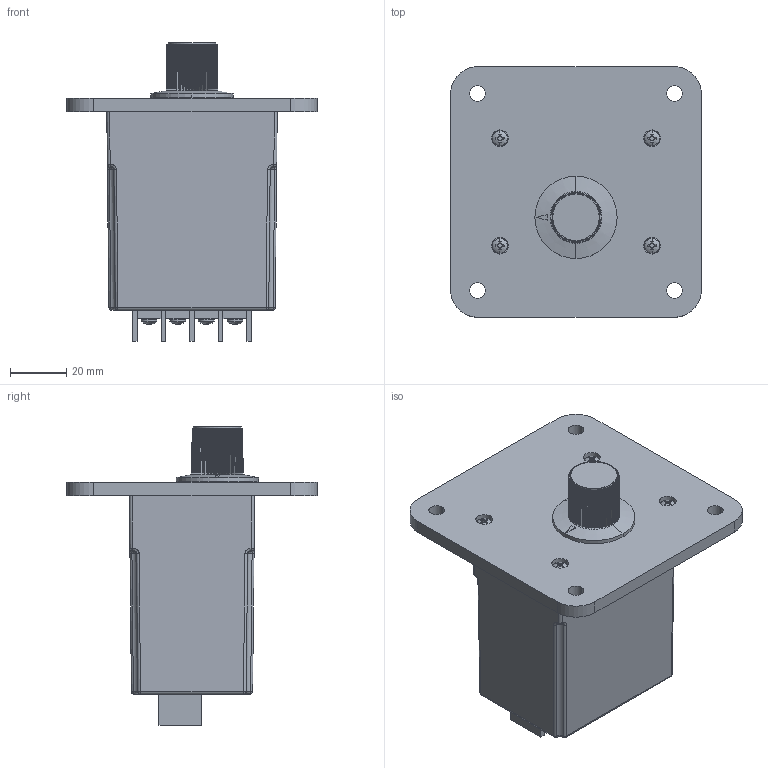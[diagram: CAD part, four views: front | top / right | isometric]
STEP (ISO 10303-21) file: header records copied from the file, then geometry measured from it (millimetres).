
FILE_DESCRIPTION (( 'STEP AP214' ), '1' );
FILE_NAME ('PTA.STEP', '2019-07-02T00:15:00', ( '' ), ( '' ), 'SwSTEP 2.0', 'SolidWorks 2019', '' );
FILE_SCHEMA (( 'AUTOMOTIVE_DESIGN' ));
Length unit declared in the file: millimetre
Products named in the file (1): PTA
Bounding box: 88.9 x 88.9 x 105.94 mm (x, y, z)
Volume: 217577.6 mm3; surface area: 47460.8 mm2
Topology: 11 solids, 11 shells, 1309 faces, 3671 edges, 2404 vertices
Faces by surface type: plane 688, cylinder 453, bspline 91, cone 67, sphere 10
Entity records: 66824 total; most frequent: CARTESIAN_POINT 25940, ORIENTED_EDGE 7342, DIRECTION 5508, EDGE_CURVE 3671, VERTEX_POINT 2404, AXIS2_PLACEMENT_3D 1846, VECTOR 1816, LINE 1816
